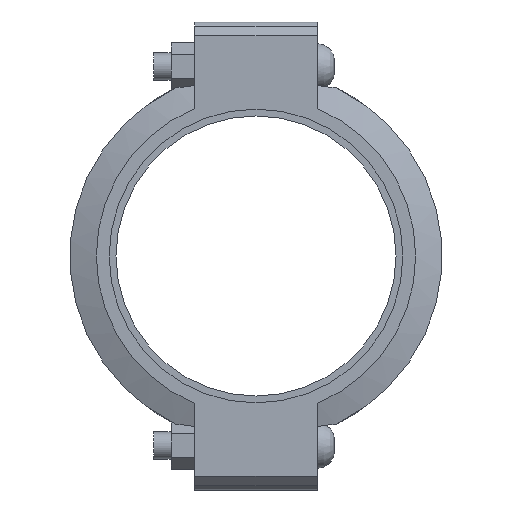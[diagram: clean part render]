
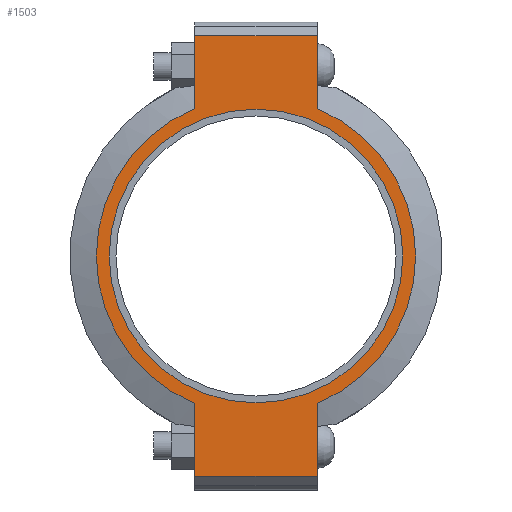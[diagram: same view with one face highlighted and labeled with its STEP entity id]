
A CAD part, left-side view. The second image highlights one B-rep face of the part: STEP entity #1503.
In plain terms, the highlighted planar face has unit normal (-1, 0, 0) as drawn and (0, 0, 1) by its records, which use the part's own axes.
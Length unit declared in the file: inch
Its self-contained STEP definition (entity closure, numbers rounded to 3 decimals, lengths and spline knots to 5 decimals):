
#130=LINE('',#2561,#217);
#141=LINE('',#2612,#228);
#147=LINE('',#2638,#234);
#149=LINE('',#2641,#236);
#150=LINE('',#2646,#237);
#151=LINE('',#2647,#238);
#217=VECTOR('',#2075,0.3937);
#228=VECTOR('',#2106,0.3937);
#234=VECTOR('',#2124,0.3937);
#236=VECTOR('',#2128,0.3937);
#237=VECTOR('',#2133,0.3937);
#238=VECTOR('',#2134,0.3937);
#296=FACE_BOUND('',#455,.T.);
#356=FACE_OUTER_BOUND('',#454,.T.);
#454=EDGE_LOOP('',(#1192,#1193,#1194,#1195,#1196,#1197,#1198,#1199));
#455=EDGE_LOOP('',(#1200));
#560=CIRCLE('',#1748,5.845);
#561=CIRCLE('',#1749,5.845);
#562=CIRCLE('',#1750,5.375);
#669=VERTEX_POINT('',#2558);
#670=VERTEX_POINT('',#2560);
#687=VERTEX_POINT('',#2607);
#688=VERTEX_POINT('',#2611);
#695=VERTEX_POINT('',#2633);
#696=VERTEX_POINT('',#2637);
#697=VERTEX_POINT('',#2643);
#698=VERTEX_POINT('',#2645);
#699=VERTEX_POINT('',#2649);
#839=EDGE_CURVE('',#670,#669,#130,.T.);
#860=EDGE_CURVE('',#688,#687,#141,.T.);
#871=EDGE_CURVE('',#696,#695,#147,.T.);
#873=EDGE_CURVE('',#696,#669,#149,.T.);
#874=EDGE_CURVE('',#695,#697,#560,.T.);
#875=EDGE_CURVE('',#697,#698,#150,.T.);
#876=EDGE_CURVE('',#688,#698,#151,.T.);
#877=EDGE_CURVE('',#687,#670,#561,.T.);
#878=EDGE_CURVE('',#699,#699,#562,.T.);
#1192=ORIENTED_EDGE('',*,*,#873,.F.);
#1193=ORIENTED_EDGE('',*,*,#871,.T.);
#1194=ORIENTED_EDGE('',*,*,#874,.T.);
#1195=ORIENTED_EDGE('',*,*,#875,.T.);
#1196=ORIENTED_EDGE('',*,*,#876,.F.);
#1197=ORIENTED_EDGE('',*,*,#860,.T.);
#1198=ORIENTED_EDGE('',*,*,#877,.T.);
#1199=ORIENTED_EDGE('',*,*,#839,.T.);
#1200=ORIENTED_EDGE('',*,*,#878,.T.);
#1355=PLANE('',#1747);
#1503=ADVANCED_FACE('',(#356,#296),#1355,.T.);
#1747=AXIS2_PLACEMENT_3D('',#2642,#2129,#2130);
#1748=AXIS2_PLACEMENT_3D('',#2644,#2131,#2132);
#1749=AXIS2_PLACEMENT_3D('',#2648,#2135,#2136);
#1750=AXIS2_PLACEMENT_3D('',#2650,#2137,#2138);
#2075=DIRECTION('',(-1.,0.,0.));
#2106=DIRECTION('',(-1.,0.,0.));
#2124=DIRECTION('',(1.,0.,0.));
#2128=DIRECTION('',(0.,1.,0.));
#2129=DIRECTION('center_axis',(0.,0.,1.));
#2130=DIRECTION('ref_axis',(1.,0.,0.));
#2131=DIRECTION('center_axis',(0.,0.,1.));
#2132=DIRECTION('ref_axis',(-1.,0.,0.));
#2133=DIRECTION('',(1.,0.,0.));
#2134=DIRECTION('',(0.,-1.,0.));
#2135=DIRECTION('center_axis',(0.,0.,1.));
#2136=DIRECTION('ref_axis',(-1.,0.,0.));
#2137=DIRECTION('center_axis',(0.,0.,-1.));
#2138=DIRECTION('ref_axis',(-1.,0.,0.));
#2558=CARTESIAN_POINT('',(-8.065,2.25,1.315));
#2560=CARTESIAN_POINT('',(-5.39458,2.25,1.315));
#2561=CARTESIAN_POINT('',(8.565,2.25,1.315));
#2607=CARTESIAN_POINT('',(5.39458,2.25,1.315));
#2611=CARTESIAN_POINT('',(8.065,2.25,1.315));
#2612=CARTESIAN_POINT('',(8.565,2.25,1.315));
#2633=CARTESIAN_POINT('',(-5.39458,-2.25,1.315));
#2637=CARTESIAN_POINT('',(-8.065,-2.25,1.315));
#2638=CARTESIAN_POINT('',(-8.565,-2.25,1.315));
#2641=CARTESIAN_POINT('',(-8.065,1.125,1.315));
#2642=CARTESIAN_POINT('Origin',(0.,0.,
1.315));
#2643=CARTESIAN_POINT('',(5.39458,-2.25,1.315));
#2644=CARTESIAN_POINT('Origin',(0.,0.,1.315));
#2645=CARTESIAN_POINT('',(8.065,-2.25,1.315));
#2646=CARTESIAN_POINT('',(-8.565,-2.25,1.315));
#2647=CARTESIAN_POINT('',(8.065,-1.125,1.315));
#2648=CARTESIAN_POINT('Origin',(0.,0.,1.315));
#2649=CARTESIAN_POINT('',(5.375,0.,1.315));
#2650=CARTESIAN_POINT('Origin',(0.,0.,1.315));
